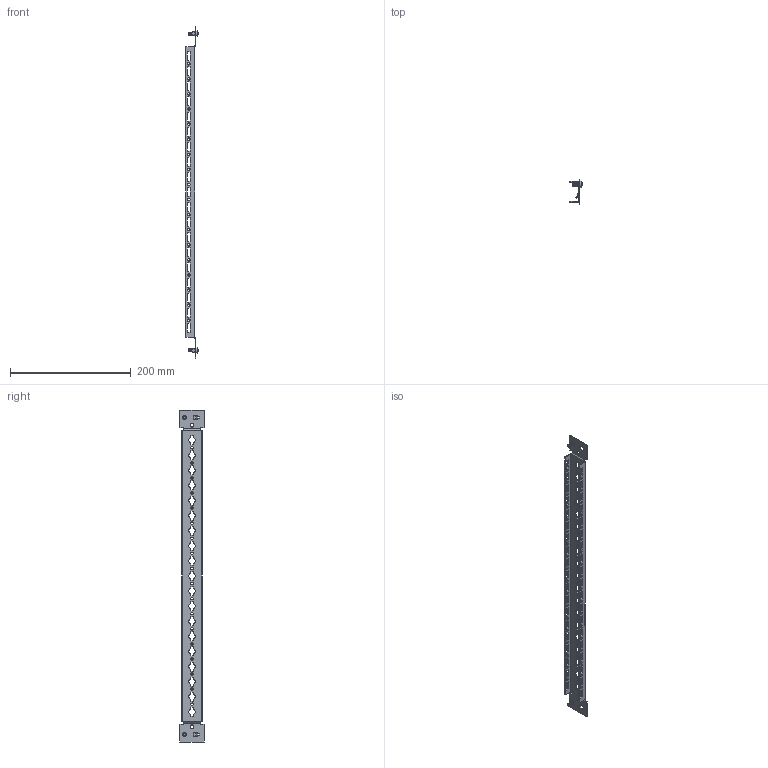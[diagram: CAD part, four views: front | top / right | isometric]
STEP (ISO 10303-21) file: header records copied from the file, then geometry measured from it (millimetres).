
FILE_DESCRIPTION(('Open CASCADE Model'),'2;1');
FILE_NAME('Open CASCADE Shape Model','2025-02-21T13:29:31',('Author'),( 'Open CASCADE'),'Open CASCADE STEP processor 7.8','Open CASCADE 7.8' ,'Unknown');
FILE_SCHEMA(('AUTOMOTIVE_DESIGN { 1 0 10303 214 1 1 1 1 }'));
Length unit declared in the file: millimetre
Products named in the file (3): Compound1; Solid1; Solid2
Assembly tree (3 placements, depth 2):
  Compound1
    Solid1
    Solid2  x2
Bounding box: 20.36 x 40 x 550.04 mm (x, y, z)
Volume: 40641.4 mm3; surface area: 60766.6 mm2
Topology: 3 solids, 3 shells, 734 faces, 2088 edges, 1362 vertices
Faces by surface type: plane 388, cylinder 282, cone 56, torus 4, sphere 2, bspline 2
Full cylindrical faces by diameter (mm): 4.2 x54, 5 x28, 6.5 x4, 9.5 x2
Entity records: 23252 total; most frequent: CARTESIAN_POINT 4437, ORIENTED_EDGE 3958, DIRECTION 3810, EDGE_CURVE 1979, VERTEX_POINT 1306, LINE 1288, VECTOR 1288, AXIS2_PLACEMENT_3D 1261
